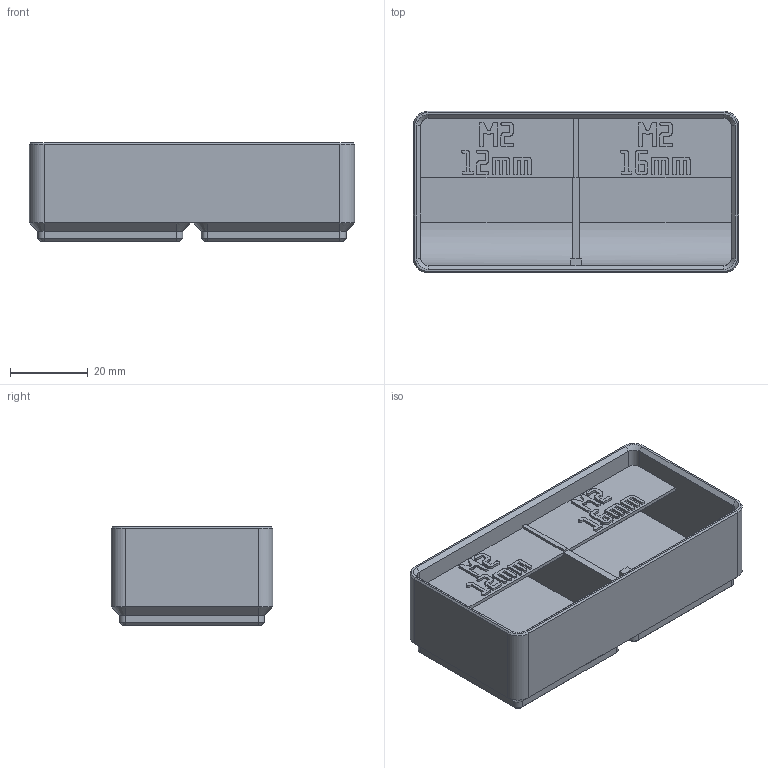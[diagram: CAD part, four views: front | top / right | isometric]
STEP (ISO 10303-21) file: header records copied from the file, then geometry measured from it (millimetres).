
FILE_DESCRIPTION(('Open CASCADE Model'),'2;1');
FILE_NAME('Open CASCADE Shape Model','2026-11-03T16:31:19',('Author'),( 'Open CASCADE'),'Open CASCADE STEP processor 8.0','build123d', 'Unknown');
FILE_SCHEMA(('AUTOMOTIVE_DESIGN { 1 0 10303 214 1 1 1 1 }'));
Products named in the file (1): COMPOUND
Bounding box: 83.5 x 41.5 x 25.4 mm (x, y, z)
Volume: 38757.5 mm3; surface area: 18892.8 mm2
Topology: 1 solids, 1 shells, 1313 faces, 3827 edges, 2530 vertices
Faces by surface type: plane 1271, cone 24, cylinder 18
Entity records: 89914 total; most frequent: CARTESIAN_POINT 18209, DIRECTION 11579, LINE 8823, VECTOR 8823, ORIENTED_EDGE 7654, PCURVE 7654, DEFINITIONAL_REPRESENTATION 7654, EDGE_CURVE 3827
